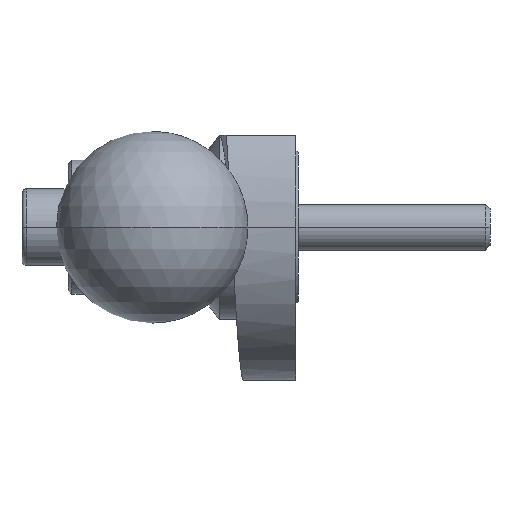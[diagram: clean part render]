
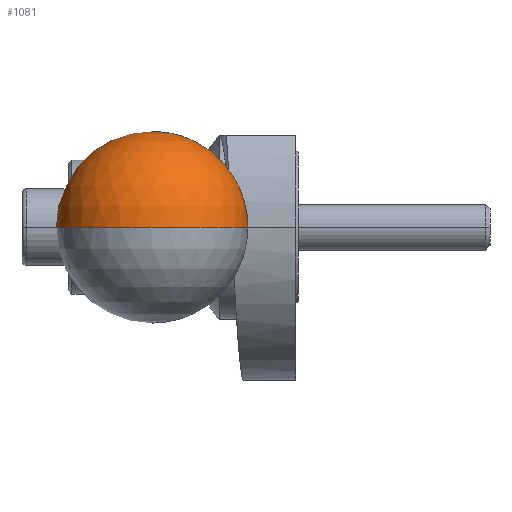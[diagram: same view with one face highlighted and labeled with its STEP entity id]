
A CAD part, left-side view. The second image highlights one B-rep face of the part: STEP entity #1081.
In plain terms, the highlighted spherical face has radius 12.5 mm.
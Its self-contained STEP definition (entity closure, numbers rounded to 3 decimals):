
#43 = CARTESIAN_POINT ( 'NONE',  ( -87.5, 8.75, 0. ) ) ;
#222 = CIRCLE ( 'NONE', #1398, 12.5 ) ;
#264 = AXIS2_PLACEMENT_3D ( 'NONE', #1757, #335, #1935 ) ;
#324 = AXIS2_PLACEMENT_3D ( 'NONE', #1578, #615, #947 ) ;
#335 = DIRECTION ( 'NONE',  ( 1., 0., 0. ) ) ;
#518 = DIRECTION ( 'NONE',  ( 0., 0., -1. ) ) ;
#615 = DIRECTION ( 'NONE',  ( 0., 0., 1. ) ) ;
#659 = VERTEX_POINT ( 'NONE', #1873 ) ;
#725 = FACE_OUTER_BOUND ( 'NONE', #980, .T. ) ;
#883 = SPHERICAL_SURFACE ( 'NONE', #970, 12.5 ) ;
#947 = DIRECTION ( 'NONE',  ( 1., 0., 0. ) ) ;
#970 = AXIS2_PLACEMENT_3D ( 'NONE', #1516, #1526, #1030 ) ;
#980 = EDGE_LOOP ( 'NONE', ( #1277, #1872, #1995 ) ) ;
#1030 = DIRECTION ( 'NONE',  ( 0., -1., 0. ) ) ;
#1049 = CARTESIAN_POINT ( 'NONE',  ( -100., 8.75, 0. ) ) ;
#1081 = ADVANCED_FACE ( 'NONE', ( #725 ), #883, .T. ) ;
#1097 = VERTEX_POINT ( 'NONE', #1049 ) ;
#1114 = CIRCLE ( 'NONE', #264, 7.5 ) ;
#1234 = EDGE_CURVE ( 'NONE', #1097, #1972, #1335, .T. ) ;
#1275 = CARTESIAN_POINT ( 'NONE',  ( -77.5, 1.25, 0. ) ) ;
#1277 = ORIENTED_EDGE ( 'NONE', *, *, #1435, .F. ) ;
#1335 = CIRCLE ( 'NONE', #324, 12.5 ) ;
#1398 = AXIS2_PLACEMENT_3D ( 'NONE', #43, #518, #1916 ) ;
#1435 = EDGE_CURVE ( 'NONE', #1097, #659, #222, .T. ) ;
#1495 = EDGE_CURVE ( 'NONE', #659, #1972, #1114, .T. ) ;
#1516 = CARTESIAN_POINT ( 'NONE',  ( -87.5, 8.75, 0. ) ) ;
#1526 = DIRECTION ( 'NONE',  ( 0., 0., -1. ) ) ;
#1578 = CARTESIAN_POINT ( 'NONE',  ( -87.5, 8.75, 0. ) ) ;
#1757 = CARTESIAN_POINT ( 'NONE',  ( -77.5, 8.75, 0. ) ) ;
#1872 = ORIENTED_EDGE ( 'NONE', *, *, #1234, .T. ) ;
#1873 = CARTESIAN_POINT ( 'NONE',  ( -77.5, 16.25, 0. ) ) ;
#1916 = DIRECTION ( 'NONE',  ( 0., 1., 0. ) ) ;
#1935 = DIRECTION ( 'NONE',  ( 0., 1., 0. ) ) ;
#1972 = VERTEX_POINT ( 'NONE', #1275 ) ;
#1995 = ORIENTED_EDGE ( 'NONE', *, *, #1495, .F. ) ;
